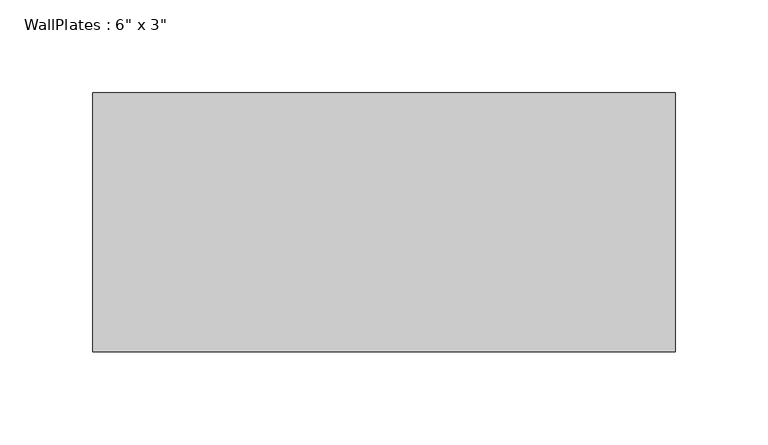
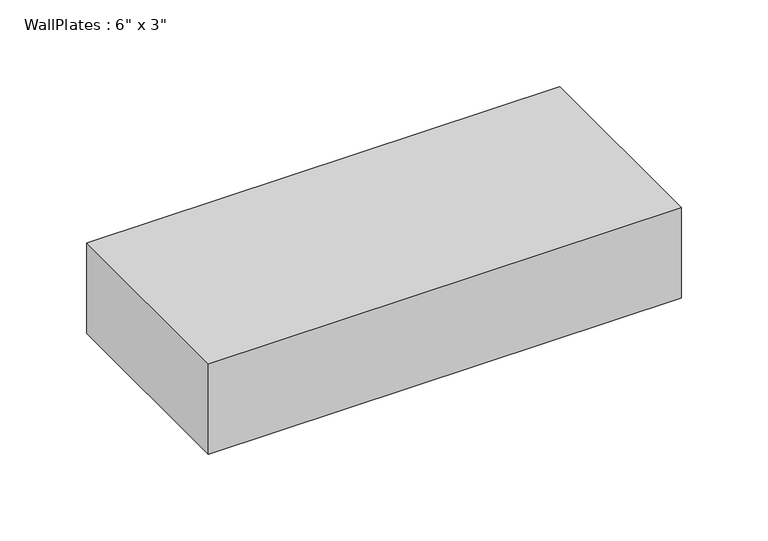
"""IFC4 building model written with IfcOpenShell, lengths in millimetres: beam geometry."""

from ifc_helpers import new_model, si_unit, frame, origin, place, context, project, spatial, polyline, outline, extrude, source, transform, mapped, element, save


def beam_40d0c6fd(model_context):
    return source(origin(), model_context, "Body", "SweptSolid", [
        extrude(outline(polyline([(-156.963873, -69.85), (-156.963873, 69.85), (156.963873, 69.85), (156.963873, -69.85), (-156.963873, -69.85)])), frame((0.0, 0.0, -31.75), z_axis=(0.0, 0.0, 1.0), x_axis=(1.0, 0.0, 0.0)), (0.0, 0.0, 1.0), 63.5),
    ])


if __name__ == "__main__":
    model = new_model("IFC4")
    model_context = context("Model", 3, world=origin())
    ifc_project = project(units=[si_unit("LENGTHUNIT", "METRE", prefix="MILLI")], contexts=[model_context])
    site = spatial("IfcSite", under=ifc_project)
    building = spatial("IfcBuilding", under=site)
    placement = place(None, origin())
    beam_shape = beam_40d0c6fd(model_context)
    element("IfcBeam", 1, ObjectType="WallPlates : 6\" x 3\"", at=placement, inside=building, context=model_context, shape_type="MappedRepresentation", body=[
        mapped(beam_shape, transform((0.0, 0.0, 0.0), x_axis=(1.0, 0.0, 0.0), y_axis=(0.0, 1.0, 0.0), z_axis=(0.0, 0.0, 1.0))),
    ])
    save(model, "model.ifc")
